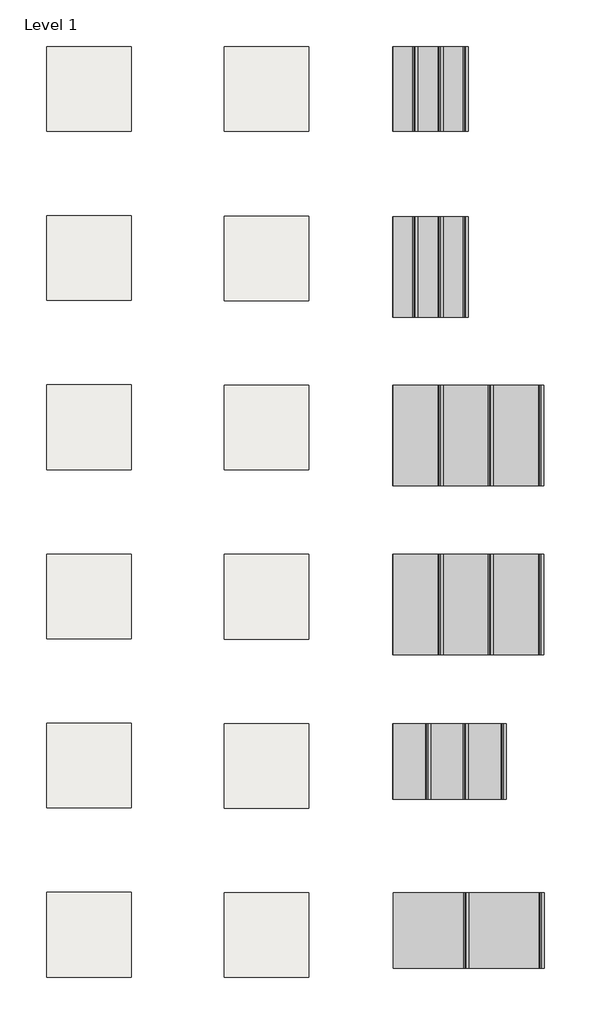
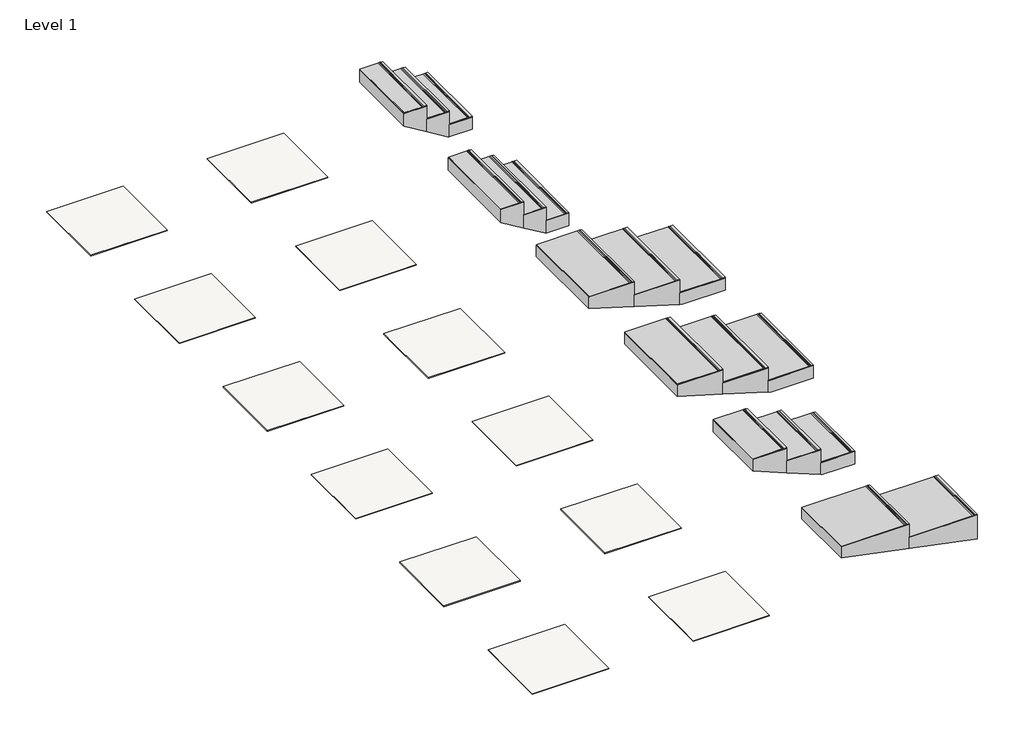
# One storey: 12 coverings, 6 stair flights.
"""IFC4 building model written with IfcOpenShell, lengths in millimetres."""

from ifc_helpers import new_model, si_unit, frame, origin, place, context, project, spatial, polyline, outline, extrude, faceted_brep, element, save

model = new_model("IFC4")

# Units and contexts
model_context = context("Model", 3, world=origin())
ifc_project = project(units=[si_unit("LENGTHUNIT", "METRE", prefix="MILLI")], contexts=[model_context])

# Site, building, storey
site = spatial("IfcSite", under=ifc_project)
building = spatial("IfcBuilding", under=site)
storey = spatial("IfcBuildingStorey", under=building, Name="Level 1", Elevation=0.0)

# Coverings
placement = place(None, origin())
element("IfcCovering", 1, ObjectType="REVIGRÉS-CALACATTA CLASSIC-DG-30x60-MATT RECT-CLASSIC", at=placement, inside=storey, context=model_context, shape_type="SweptSolid", body=[
    extrude(outline(polyline([(77840.9341098, 18731.1346775), (76840.9341098, 18731.1346775), (76840.9341098, 19731.1346775), (77840.9341098, 19731.1346775), (77840.9341098, 18731.1346775)])), frame((0.0, 0.0, -9.8), z_axis=(0.0, 0.0, 1.0), x_axis=(1.0, 0.0, 0.0)), (0.0, 0.0, 1.0), 9.8),
])
element("IfcCovering", 2, ObjectType="REVIGRÉS-CALACATTA CLASSIC-DG-30x60-POL-CLASSIC", at=placement, inside=storey, context=model_context, shape_type="SweptSolid", body=[
    extrude(outline(polyline([(79941.0591098, 18727.0096775), (78940.8091098, 18727.0096775), (78940.8091098, 19727.0096775), (79941.0591098, 19727.0096775), (79941.0591098, 18727.0096775)])), frame((0.0, 0.0, -9.8), z_axis=(0.0, 0.0, 1.0), x_axis=(1.0, 0.0, 0.0)), (0.0, 0.0, 1.0), 9.8),
])
element("IfcCovering", 3, ObjectType="REVIGRÉS-CALACATTA CLASSIC-DG-60x60-MATT RECT-CLASSIC", at=placement, inside=storey, context=model_context, shape_type="SweptSolid", body=[
    extrude(outline(polyline([(77840.9341098, 14731.1346775), (76840.9341098, 14731.1346775), (76840.9341098, 15731.1346775), (77840.9341098, 15731.1346775), (77840.9341098, 14731.1346775)])), frame((0.0, 0.0, -9.8), z_axis=(0.0, 0.0, 1.0), x_axis=(1.0, 0.0, 0.0)), (0.0, 0.0, 1.0), 9.8),
])
element("IfcCovering", 4, ObjectType="REVIGRÉS-CALACATTA CLASSIC-DG-60x60-POL-CLASSIC", at=placement, inside=storey, context=model_context, shape_type="SweptSolid", body=[
    extrude(outline(polyline([(79941.0591098, 14727.0096775), (78940.8091098, 14727.0096775), (78940.8091098, 15727.0096775), (79941.0591098, 15727.0096775), (79941.0591098, 14727.0096775)])), frame((0.0, 0.0, -9.8), z_axis=(0.0, 0.0, 1.0), x_axis=(1.0, 0.0, 0.0)), (0.0, 0.0, 1.0), 9.8),
])
element("IfcCovering", 5, ObjectType="REVIGRÉS-CALACATTA CLASSIC-DG-60x120-MATT RECT-CLASSIC", at=placement, inside=storey, context=model_context, shape_type="SweptSolid", body=[
    extrude(outline(polyline([(77840.9341098, 12731.1346775), (76840.9341098, 12731.1346775), (76840.9341098, 13731.1346775), (77840.9341098, 13731.1346775), (77840.9341098, 12731.1346775)])), frame((0.0, 0.0, -9.8), z_axis=(0.0, 0.0, 1.0), x_axis=(1.0, 0.0, 0.0)), (0.0, 0.0, 1.0), 9.8),
])
element("IfcCovering", 6, ObjectType="REVIGRÉS-CALACATTA CLASSIC-DG-60x120-POL-CLASSIC", at=placement, inside=storey, context=model_context, shape_type="SweptSolid", body=[
    extrude(outline(polyline([(79940.7341098, 12726.6846775), (78941.1341098, 12726.6846775), (78941.1341098, 13726.6846775), (79940.7341098, 13726.6846775), (79940.7341098, 12726.6846775)])), frame((0.0, 0.0, -9.8), z_axis=(0.0, 0.0, 1.0), x_axis=(1.0, 0.0, 0.0)), (0.0, 0.0, 1.0), 9.8),
])
element("IfcCovering", 7, ObjectType="REVIGRÉS-CALACATTA CLASSIC-DG-45x90-MATT RECT-CLASSIC", at=placement, inside=storey, context=model_context, shape_type="SweptSolid", body=[
    extrude(outline(polyline([(77840.9341098, 10731.1346775), (76840.9341098, 10731.1346775), (76840.9341098, 11731.1346775), (77840.9341098, 11731.1346775), (77840.9341098, 10731.1346775)])), frame((0.0, 0.0, -10.5), z_axis=(0.0, 0.0, 1.0), x_axis=(1.0, 0.0, 0.0)), (0.0, 0.0, 1.0), 10.5),
])
element("IfcCovering", 8, ObjectType="REVIGRÉS-CALACATTA CLASSIC-DG-45x90-POL-CLASSIC", at=placement, inside=storey, context=model_context, shape_type="SweptSolid", body=[
    extrude(outline(polyline([(79940.6091098, 10726.5596775), (78941.2591098, 10726.5596775), (78941.2591098, 11726.5596775), (79940.6091098, 11726.5596775), (79940.6091098, 10726.5596775)])), frame((0.0, 0.0, -10.5), z_axis=(0.0, 0.0, 1.0), x_axis=(1.0, 0.0, 0.0)), (0.0, 0.0, 1.0), 10.5),
])
element("IfcCovering", 9, ObjectType="REVIGRÉS-CALACATTA CLASSIC-DG-30x120-MATT RECT-CLASSIC", at=placement, inside=storey, context=model_context, shape_type="SweptSolid", body=[
    extrude(outline(polyline([(77840.9341098, 16731.1346775), (76840.9341098, 16731.1346775), (76840.9341098, 17731.1346775), (77840.9341098, 17731.1346775), (77840.9341098, 16731.1346775)])), frame((0.0, 0.0, -9.8), z_axis=(0.0, 0.0, 1.0), x_axis=(1.0, 0.0, 0.0)), (0.0, 0.0, 1.0), 9.8),
])
element("IfcCovering", 10, ObjectType="REVIGRÉS-CALACATTA CLASSIC-DG-30x120-POL-CLASSIC", at=placement, inside=storey, context=model_context, shape_type="SweptSolid", body=[
    extrude(outline(polyline([(79941.0591098, 16727.0096775), (78940.8091098, 16727.0096775), (78940.8091098, 17727.0096775), (79941.0591098, 17727.0096775), (79941.0591098, 16727.0096775)])), frame((0.0, 0.0, -9.8), z_axis=(0.0, 0.0, 1.0), x_axis=(1.0, 0.0, 0.0)), (0.0, 0.0, 1.0), 9.8),
])
element("IfcCovering", 11, ObjectType="REVIGRÉS-CALACATTA CLASSIC-DG-90x90-MATT RECT-CLASSIC", at=placement, inside=storey, context=model_context, shape_type="SweptSolid", body=[
    extrude(outline(polyline([(77840.9341098, 8731.1346775), (76840.9341098, 8731.1346775), (76840.9341098, 9731.1346775), (77840.9341098, 9731.1346775), (77840.9341098, 8731.1346775)])), frame((0.0, 0.0, -10.5), z_axis=(0.0, 0.0, 1.0), x_axis=(1.0, 0.0, 0.0)), (0.0, 0.0, 1.0), 10.5),
])
element("IfcCovering", 12, ObjectType="REVIGRÉS-CALACATTA CLASSIC-DG-90x90-POL-CLASSIC", at=placement, inside=storey, context=model_context, shape_type="SweptSolid", body=[
    extrude(outline(polyline([(79940.6091098, 8726.5596775), (78941.2591098, 8726.5596775), (78941.2591098, 9726.5596775), (79940.6091098, 9726.5596775), (79940.6091098, 8726.5596775)])), frame((0.0, 0.0, -10.5), z_axis=(0.0, 0.0, 1.0), x_axis=(1.0, 0.0, 0.0)), (0.0, 0.0, 1.0), 10.5),
])

# Stair flights
element("IfcStairFlight", 13, ObjectType="REVIGRÉS-CALACATTA CLASSIC-DG-30X60", at=placement, inside=storey, context=model_context, shape_type="SolidModel", body=[
    faceted_brep([(81528.9341098, 18727.0096775, 169.4941176), (81825.9341098, 18727.0096775, 169.4941176), (81825.9341098, 19727.0096775, 169.4941176), (81528.9341098, 19727.0096775, 169.4941176), (81528.9341098, 18727.0096775, 0.0), (81825.9341098, 18727.0096775, 0.0), (81825.9341099, 19727.0096775, 0.0), (81528.9341098, 19727.0096775, 0.0), (81231.9341098, 18727.0096775, 348.7882353), (81528.9341098, 18727.0096775, 348.7882353), (81528.9341098, 19727.0096775, 348.7882353), (81231.9341098, 19727.0096775, 348.7882353), (81231.9341098, 18727.0096775, 173.5747353), (81519.4599755, 18727.0096775, 0.0), (81519.4599755, 19727.0096775, 0.0), (81231.9341098, 19727.0096775, 173.5747353), (80934.9341098, 18727.0096775, 528.0823529), (81231.9341098, 18727.0096775, 528.0823529), (81231.9341098, 19727.0096775, 528.0823529), (80934.9341098, 19727.0096775, 528.0823529), (80934.9341098, 18727.0096775, 352.8688529), (80934.9341098, 19727.0096775, 352.8688529)], [[[0, 1, 2, 3]], [[1, 0, 4, 5]], [[2, 1, 5, 6]], [[3, 2, 6, 7]], [[8, 9, 10, 11]], [[4, 0, 9, 8, 12, 13]], [[0, 3, 10, 9]], [[3, 7, 14, 15, 11, 10]], [[16, 17, 18, 19]], [[17, 16, 20, 12, 8]], [[8, 11, 18, 17]], [[19, 18, 11, 15, 21]], [[16, 19, 21, 20]], [[5, 4, 13, 14, 7, 6]], [[14, 13, 12, 20, 21, 15]]]),
    extrude(outline(polyline([(179.2941176, 81795.9341098), (178.2941176, 81795.9341098), (178.2941176, 81790.9341098), (179.2941176, 81790.9341098), (179.2941176, 81780.9341098), (178.2941176, 81780.9341098), (178.2941176, 81775.9341098), (179.2941176, 81775.9341098), (179.2941176, 81765.9341098), (178.2941176, 81765.9341098), (178.2941176, 81760.9341098), (179.2941176, 81760.9341098), (179.2941176, 81530.9341098), (170.7941176, 81530.9341098), (170.7941176, 81825.9341098), (179.2941176, 81825.9341098), (179.2941176, 81795.9341098)])), frame((0.0, 18727.0096775, 0.0), z_axis=(0.0, 1.0, 0.0), x_axis=(0.0, 0.0, 1.0)), (0.0, 0.0, 1.0), 1000.0),
    extrude(outline(polyline([(358.5882353, 81498.9341098), (357.5882353, 81498.9341098), (357.5882353, 81493.9341098), (358.5882353, 81493.9341098), (358.5882353, 81483.9341098), (357.5882353, 81483.9341098), (357.5882353, 81478.9341098), (358.5882353, 81478.9341098), (358.5882353, 81468.9341098), (357.5882353, 81468.9341098), (357.5882353, 81463.9341098), (358.5882353, 81463.9341098), (358.5882353, 81233.9341098), (350.0882353, 81233.9341098), (350.0882353, 81528.9341098), (358.5882353, 81528.9341098), (358.5882353, 81498.9341098)])), frame((0.0, 18727.0096775, 0.0), z_axis=(0.0, 1.0, 0.0), x_axis=(0.0, 0.0, 1.0)), (0.0, 0.0, 1.0), 1000.0),
    extrude(outline(polyline([(537.8823529, 81201.9341098), (536.8823529, 81201.9341098), (536.8823529, 81196.9341098), (537.8823529, 81196.9341098), (537.8823529, 81186.9341098), (536.8823529, 81186.9341098), (536.8823529, 81181.9341098), (537.8823529, 81181.9341098), (537.8823529, 81171.9341098), (536.8823529, 81171.9341098), (536.8823529, 81166.9341098), (537.8823529, 81166.9341098), (537.8823529, 80936.9341098), (529.3823529, 80936.9341098), (529.3823529, 81231.9341098), (537.8823529, 81231.9341098), (537.8823529, 81201.9341098)])), frame((0.0, 18727.0096775, 0.0), z_axis=(0.0, 1.0, 0.0), x_axis=(0.0, 0.0, 1.0)), (0.0, 0.0, 1.0), 1000.0),
])
element("IfcStairFlight", 14, ObjectType="REVIGRÉS-CALACATTA CLASSIC-DG-30X120", at=placement, inside=storey, context=model_context, shape_type="SolidModel", body=[
    faceted_brep([(81528.9341098, 16533.0096775, 169.4941176), (81825.9341098, 16533.0096775, 169.4941176), (81825.9341099, 17721.0096775, 169.4941176), (81528.9341098, 17721.0096775, 169.4941176), (81528.9341098, 16533.0096775, 0.0), (81825.9341098, 16533.0096775, 0.0), (81825.9341098, 17721.0096775, 0.0), (81528.9341098, 17721.0096775, 0.0), (81231.9341098, 16533.0096775, 348.7882353), (81528.9341098, 16533.0096775, 348.7882353), (81528.9341098, 17721.0096775, 348.7882353), (81231.9341098, 17721.0096775, 348.7882353), (81231.9341098, 16533.0096775, 173.5747353), (81519.4599755, 16533.0096775, 0.0), (81519.4599755, 17721.0096775, 0.0), (81231.9341098, 17721.0096775, 173.5747353), (80934.9341098, 16533.0096775, 528.0823529), (81231.9341098, 16533.0096775, 528.0823529), (81231.9341098, 17721.0096775, 528.0823529), (80934.9341098, 17721.0096775, 528.0823529), (80934.9341098, 16533.0096775, 352.8688529), (80934.9341098, 17721.0096775, 352.8688529)], [[[0, 1, 2, 3]], [[1, 0, 4, 5]], [[2, 1, 5, 6]], [[3, 2, 6, 7]], [[8, 9, 10, 11]], [[4, 0, 9, 8, 12, 13]], [[0, 3, 10, 9]], [[3, 7, 14, 15, 11, 10]], [[16, 17, 18, 19]], [[17, 16, 20, 12, 8]], [[8, 11, 18, 17]], [[19, 18, 11, 15, 21]], [[16, 19, 21, 20]], [[5, 4, 13, 14, 7, 6]], [[14, 13, 12, 20, 21, 15]]]),
    extrude(outline(polyline([(179.2941176, 81795.9341098), (178.2941176, 81795.9341098), (178.2941176, 81790.9341098), (179.2941176, 81790.9341098), (179.2941176, 81780.9341098), (178.2941176, 81780.9341098), (178.2941176, 81775.9341098), (179.2941176, 81775.9341098), (179.2941176, 81765.9341098), (178.2941176, 81765.9341098), (178.2941176, 81760.9341098), (179.2941176, 81760.9341098), (179.2941176, 81530.9341098), (169.4941176, 81530.9341098), (169.4941176, 81825.9341098), (179.2941176, 81825.9341098), (179.2941176, 81795.9341098)])), frame((0.0, 16533.0096775, 0.0), z_axis=(0.0, 1.0, 0.0), x_axis=(0.0, 0.0, 1.0)), (0.0, 0.0, 1.0), 1188.0),
    extrude(outline(polyline([(358.5882353, 81498.9341098), (357.5882353, 81498.9341098), (357.5882353, 81493.9341098), (358.5882353, 81493.9341098), (358.5882353, 81483.9341098), (357.5882353, 81483.9341098), (357.5882353, 81478.9341098), (358.5882353, 81478.9341098), (358.5882353, 81468.9341098), (357.5882353, 81468.9341098), (357.5882353, 81463.9341098), (358.5882353, 81463.9341098), (358.5882353, 81233.9341098), (348.7882353, 81233.9341098), (348.7882353, 81528.9341098), (358.5882353, 81528.9341098), (358.5882353, 81498.9341098)])), frame((0.0, 16533.0096775, 0.0), z_axis=(0.0, 1.0, 0.0), x_axis=(0.0, 0.0, 1.0)), (0.0, 0.0, 1.0), 1188.0),
    extrude(outline(polyline([(537.8823529, 81201.9341098), (536.8823529, 81201.9341098), (536.8823529, 81196.9341098), (537.8823529, 81196.9341098), (537.8823529, 81186.9341098), (536.8823529, 81186.9341098), (536.8823529, 81181.9341098), (537.8823529, 81181.9341098), (537.8823529, 81171.9341098), (536.8823529, 81171.9341098), (536.8823529, 81166.9341098), (537.8823529, 81166.9341098), (537.8823529, 80936.9341098), (528.0823529, 80936.9341098), (528.0823529, 81231.9341098), (537.8823529, 81231.9341098), (537.8823529, 81201.9341098)])), frame((0.0, 16533.0096775, 0.0), z_axis=(0.0, 1.0, 0.0), x_axis=(0.0, 0.0, 1.0)), (0.0, 0.0, 1.0), 1188.0),
])
element("IfcStairFlight", 15, ObjectType="REVIGRÉS-CALACATTA CLASSIC-DG-45X90", at=placement, inside=storey, context=model_context, shape_type="SolidModel", body=[
    faceted_brep([(81827.4341098, 10835.5596775, 169.4941176), (82272.9341098, 10835.5596775, 169.4941176), (82272.9341098, 11726.5596775, 169.4941176), (81827.4341098, 11726.5596775, 169.4941176), (81827.4341098, 10835.5596775, 7.8019951), (81846.8200712, 10835.5596775, 0.0), (82272.9341098, 10835.5596775, 0.0), (82272.9341098, 11726.5596775, 0.0), (81846.8200712, 11726.5596775, 0.0), (81827.4341098, 11726.5596775, 7.8019951), (81381.9341098, 10835.5596775, 348.7882353), (81827.4341098, 10835.5596775, 348.7882353), (81827.4341098, 11726.5596775, 348.7882353), (81381.9341098, 11726.5596775, 348.7882353), (81381.9341098, 10835.5596775, 187.0961128), (81381.9341098, 11726.5596775, 187.0961128), (80936.4341098, 10835.5596775, 528.0823529), (81381.9341098, 10835.5596775, 528.0823529), (81381.9341098, 11726.5596775, 528.0823529), (80936.4341098, 11726.5596775, 528.0823529), (80936.4341098, 10835.5596775, 366.3902304), (80936.4341098, 11726.5596775, 366.3902304)], [[[0, 1, 2, 3]], [[1, 0, 4, 5, 6]], [[2, 1, 6, 7]], [[3, 2, 7, 8, 9]], [[10, 11, 12, 13]], [[11, 10, 14, 4, 0]], [[0, 3, 12, 11]], [[13, 12, 3, 9, 15]], [[16, 17, 18, 19]], [[17, 16, 20, 14, 10]], [[10, 13, 18, 17]], [[19, 18, 13, 15, 21]], [[16, 19, 21, 20]], [[7, 6, 5, 8]], [[8, 5, 4, 14, 20, 21, 15, 9]]]),
    extrude(outline(polyline([(179.2941176, 82242.9341098), (178.2941176, 82242.9341098), (178.2941176, 82237.9341098), (179.2941176, 82237.9341098), (179.2941176, 82227.9341098), (178.2941176, 82227.9341098), (178.2941176, 82222.9341098), (179.2941176, 82222.9341098), (179.2941176, 82212.9341098), (178.2941176, 82212.9341098), (178.2941176, 82207.9341098), (179.2941176, 82207.9341098), (179.2941176, 81829.4341098), (168.7941176, 81829.4341098), (168.7941176, 82272.9341098), (179.2941176, 82272.9341098), (179.2941176, 82242.9341098)])), frame((0.0, 10835.5596775, 0.0), z_axis=(0.0, 1.0, 0.0), x_axis=(0.0, 0.0, 1.0)), (0.0, 0.0, 1.0), 891.0),
    extrude(outline(polyline([(358.5882353, 81797.4341098), (357.5882353, 81797.4341098), (357.5882353, 81792.4341098), (358.5882353, 81792.4341098), (358.5882353, 81782.4341098), (357.5882353, 81782.4341098), (357.5882353, 81777.4341098), (358.5882353, 81777.4341098), (358.5882353, 81767.4341098), (357.5882353, 81767.4341098), (357.5882353, 81762.4341098), (358.5882353, 81762.4341098), (358.5882353, 81383.9341098), (348.0882353, 81383.9341098), (348.0882353, 81827.4341098), (358.5882353, 81827.4341098), (358.5882353, 81797.4341098)])), frame((0.0, 10835.5596775, 0.0), z_axis=(0.0, 1.0, 0.0), x_axis=(0.0, 0.0, 1.0)), (0.0, 0.0, 1.0), 891.0),
    extrude(outline(polyline([(537.8823529, 81351.9341098), (536.8823529, 81351.9341098), (536.8823529, 81346.9341098), (537.8823529, 81346.9341098), (537.8823529, 81336.9341098), (536.8823529, 81336.9341098), (536.8823529, 81331.9341098), (537.8823529, 81331.9341098), (537.8823529, 81321.9341098), (536.8823529, 81321.9341098), (536.8823529, 81316.9341098), (537.8823529, 81316.9341098), (537.8823529, 80938.4341098), (527.3823529, 80938.4341098), (527.3823529, 81381.9341098), (537.8823529, 81381.9341098), (537.8823529, 81351.9341098)])), frame((0.0, 10835.5596775, 0.0), z_axis=(0.0, 1.0, 0.0), x_axis=(0.0, 0.0, 1.0)), (0.0, 0.0, 1.0), 891.0),
])
element("IfcStairFlight", 16, ObjectType="REVIGRÉS-CALACATTA CLASSIC-DG-60X60", at=placement, inside=storey, context=model_context, shape_type="SolidModel", body=[
    faceted_brep([(82122.9341098, 14539.0096775, 168.7941176), (82716.9341098, 14539.0096775, 168.7941176), (82716.9341098, 15727.0096775, 168.7941176), (82122.9341098, 15727.0096775, 168.7941176), (82122.9341098, 14539.0096775, 12.1099045), (82163.0541281, 14539.0096775, 0.0), (82716.9341098, 14539.0096775, 0.0), (82716.9341098, 15727.0096775, 0.0), (82163.0541281, 15727.0096775, 0.0), (82122.9341098, 15727.0096775, 12.1099045), (81528.9341098, 14539.0096775, 348.0882353), (82122.9341098, 14539.0096775, 348.0882353), (82122.9341098, 15727.0096775, 348.0882353), (81528.9341098, 15727.0096775, 348.0882353), (81528.9341098, 14539.0096775, 191.4040222), (81528.9341098, 15727.0096775, 191.4040222), (80934.9341098, 14539.0096775, 527.3823529), (81528.9341098, 14539.0096775, 527.3823529), (81528.9341098, 15727.0096775, 527.3823529), (80934.9341098, 15727.0096775, 527.3823529), (80934.9341098, 14539.0096775, 370.6981398), (80934.9341098, 15727.0096775, 370.6981398)], [[[0, 1, 2, 3]], [[1, 0, 4, 5, 6]], [[2, 1, 6, 7]], [[3, 2, 7, 8, 9]], [[10, 11, 12, 13]], [[11, 10, 14, 4, 0]], [[0, 3, 12, 11]], [[13, 12, 3, 9, 15]], [[16, 17, 18, 19]], [[17, 16, 20, 14, 10]], [[10, 13, 18, 17]], [[19, 18, 13, 15, 21]], [[16, 19, 21, 20]], [[7, 6, 5, 8]], [[8, 5, 4, 14, 20, 21, 15, 9]]]),
    extrude(outline(polyline([(179.2941176, 82686.9341098), (178.2941176, 82686.9341098), (178.2941176, 82681.9341098), (179.2941176, 82681.9341098), (179.2941176, 82671.9341098), (178.2941176, 82671.9341098), (178.2941176, 82666.9341098), (179.2941176, 82666.9341098), (179.2941176, 82656.9341098), (178.2941176, 82656.9341098), (178.2941176, 82651.9341098), (179.2941176, 82651.9341098), (179.2941176, 82124.9341098), (168.7941176, 82124.9341098), (168.7941176, 82716.9341098), (179.2941176, 82716.9341098), (179.2941176, 82686.9341098)])), frame((0.0, 14539.0096775, 0.0), z_axis=(0.0, 1.0, 0.0), x_axis=(0.0, 0.0, 1.0)), (0.0, 0.0, 1.0), 1188.0),
    extrude(outline(polyline([(358.5882353, 82092.9341098), (357.5882353, 82092.9341098), (357.5882353, 82087.9341098), (358.5882353, 82087.9341098), (358.5882353, 82077.9341098), (357.5882353, 82077.9341098), (357.5882353, 82072.9341098), (358.5882353, 82072.9341098), (358.5882353, 82062.9341098), (357.5882353, 82062.9341098), (357.5882353, 82057.9341098), (358.5882353, 82057.9341098), (358.5882353, 81530.9341098), (348.0882353, 81530.9341098), (348.0882353, 82122.9341098), (358.5882353, 82122.9341098), (358.5882353, 82092.9341098)])), frame((0.0, 14539.0096775, 0.0), z_axis=(0.0, 1.0, 0.0), x_axis=(0.0, 0.0, 1.0)), (0.0, 0.0, 1.0), 1188.0),
    extrude(outline(polyline([(537.8823529, 81498.9341098), (536.8823529, 81498.9341098), (536.8823529, 81493.9341098), (537.8823529, 81493.9341098), (537.8823529, 81483.9341098), (536.8823529, 81483.9341098), (536.8823529, 81478.9341098), (537.8823529, 81478.9341098), (537.8823529, 81468.9341098), (536.8823529, 81468.9341098), (536.8823529, 81463.9341098), (537.8823529, 81463.9341098), (537.8823529, 80936.9341098), (527.3823529, 80936.9341098), (527.3823529, 81528.9341098), (537.8823529, 81528.9341098), (537.8823529, 81498.9341098)])), frame((0.0, 14539.0096775, 0.0), z_axis=(0.0, 1.0, 0.0), x_axis=(0.0, 0.0, 1.0)), (0.0, 0.0, 1.0), 1188.0),
])
element("IfcStairFlight", 17, ObjectType="REVIGRÉS-CALACATTA CLASSIC-DG-60X120", at=placement, inside=storey, context=model_context, shape_type="SolidModel", body=[
    faceted_brep([(82122.9341098, 12538.6846775, 168.7941176), (82716.9341098, 12538.6846775, 168.7941176), (82716.9341098, 13726.6846775, 168.7941176), (82122.9341098, 13726.6846775, 168.7941176), (82122.9341098, 12538.6846775, 12.1099045), (82163.0541281, 12538.6846775, 0.0), (82716.9341098, 12538.6846775, 0.0), (82716.9341098, 13726.6846775, 0.0), (82163.0541281, 13726.6846775, 0.0), (82122.9341098, 13726.6846775, 12.1099045), (81528.9341098, 12538.6846775, 348.0882353), (82122.9341098, 12538.6846775, 348.0882353), (82122.9341098, 13726.6846775, 348.0882353), (81528.9341098, 13726.6846775, 348.0882353), (81528.9341098, 12538.6846775, 191.4040222), (81528.9341098, 13726.6846775, 191.4040222), (80934.9341098, 12538.6846775, 527.3823529), (81528.9341098, 12538.6846775, 527.3823529), (81528.9341098, 13726.6846775, 527.3823529), (80934.9341098, 13726.6846775, 527.3823529), (80934.9341098, 12538.6846775, 370.6981398), (80934.9341098, 13726.6846775, 370.6981398)], [[[0, 1, 2, 3]], [[1, 0, 4, 5, 6]], [[2, 1, 6, 7]], [[3, 2, 7, 8, 9]], [[10, 11, 12, 13]], [[11, 10, 14, 4, 0]], [[0, 3, 12, 11]], [[13, 12, 3, 9, 15]], [[16, 17, 18, 19]], [[17, 16, 20, 14, 10]], [[10, 13, 18, 17]], [[19, 18, 13, 15, 21]], [[16, 19, 21, 20]], [[7, 6, 5, 8]], [[8, 5, 4, 14, 20, 21, 15, 9]]]),
    extrude(outline(polyline([(179.2941176, 82686.9341098), (178.2941176, 82686.9341098), (178.2941176, 82681.9341098), (179.2941176, 82681.9341098), (179.2941176, 82671.9341098), (178.2941176, 82671.9341098), (178.2941176, 82666.9341098), (179.2941176, 82666.9341098), (179.2941176, 82656.9341098), (178.2941176, 82656.9341098), (178.2941176, 82651.9341098), (179.2941176, 82651.9341098), (179.2941176, 82124.9341098), (169.4941176, 82124.9341098), (169.4941176, 82716.9341098), (179.2941176, 82716.9341098), (179.2941176, 82686.9341098)])), frame((0.0, 12538.6846775, 0.0), z_axis=(0.0, 1.0, 0.0), x_axis=(0.0, 0.0, 1.0)), (0.0, 0.0, 1.0), 1188.0),
    extrude(outline(polyline([(358.5882353, 82092.9341098), (357.5882353, 82092.9341098), (357.5882353, 82087.9341098), (358.5882353, 82087.9341098), (358.5882353, 82077.9341098), (357.5882353, 82077.9341098), (357.5882353, 82072.9341098), (358.5882353, 82072.9341098), (358.5882353, 82062.9341098), (357.5882353, 82062.9341098), (357.5882353, 82057.9341098), (358.5882353, 82057.9341098), (358.5882353, 81530.9341098), (348.7882353, 81530.9341098), (348.7882353, 82122.9341098), (358.5882353, 82122.9341098), (358.5882353, 82092.9341098)])), frame((0.0, 12538.6846775, 0.0), z_axis=(0.0, 1.0, 0.0), x_axis=(0.0, 0.0, 1.0)), (0.0, 0.0, 1.0), 1188.0),
    extrude(outline(polyline([(537.8823529, 81498.9341098), (536.8823529, 81498.9341098), (536.8823529, 81493.9341098), (537.8823529, 81493.9341098), (537.8823529, 81483.9341098), (536.8823529, 81483.9341098), (536.8823529, 81478.9341098), (537.8823529, 81478.9341098), (537.8823529, 81468.9341098), (536.8823529, 81468.9341098), (536.8823529, 81463.9341098), (537.8823529, 81463.9341098), (537.8823529, 80936.9341098), (528.0823529, 80936.9341098), (528.0823529, 81528.9341098), (537.8823529, 81528.9341098), (537.8823529, 81498.9341098)])), frame((0.0, 12538.6846775, 0.0), z_axis=(0.0, 1.0, 0.0), x_axis=(0.0, 0.0, 1.0)), (0.0, 0.0, 1.0), 1188.0),
])
element("IfcStairFlight", 18, ObjectType="REVIGRÉS-CALACATTA CLASSIC-DG-90X90", at=placement, inside=storey, context=model_context, shape_type="SolidModel", body=[
    faceted_brep([(81831.9341098, 8835.5596775, 348.7882353), (82722.9341098, 8835.5596775, 348.7882353), (82722.9341098, 9726.5596775, 348.7882353), (81831.9341098, 9726.5596775, 348.7882353), (81831.9341098, 8835.5596775, 195.7814197), (82722.9341098, 8835.5596775, 16.487302), (82722.9341098, 9726.5596775, 16.487302), (81831.9341098, 9726.5596775, 195.7814197), (80940.9341098, 8835.5596775, 528.0823529), (81831.9341098, 8835.5596775, 528.0823529), (81831.9341098, 9726.5596775, 528.0823529), (80940.9341098, 9726.5596775, 528.0823529), (80940.9341098, 8835.5596775, 375.0755373), (80940.9341098, 9726.5596775, 375.0755373)], [[[0, 1, 2, 3]], [[1, 0, 4, 5]], [[2, 1, 5, 6]], [[3, 2, 6, 7]], [[8, 9, 10, 11]], [[9, 8, 12, 4, 0]], [[0, 3, 10, 9]], [[11, 10, 3, 7, 13]], [[8, 11, 13, 12]], [[5, 4, 12, 13, 7, 6]]]),
    extrude(outline(polyline([(358.5882353, 82692.9341098), (357.5882353, 82692.9341098), (357.5882353, 82687.9341098), (358.5882353, 82687.9341098), (358.5882353, 82677.9341098), (357.5882353, 82677.9341098), (357.5882353, 82672.9341098), (358.5882353, 82672.9341098), (358.5882353, 82662.9341098), (357.5882353, 82662.9341098), (357.5882353, 82657.9341098), (358.5882353, 82657.9341098), (358.5882353, 81831.9341098), (348.0882353, 81831.9341098), (348.0882353, 82722.9341098), (358.5882353, 82722.9341098), (358.5882353, 82692.9341098)])), frame((0.0, 8835.5596775, 0.0), z_axis=(0.0, 1.0, 0.0), x_axis=(0.0, 0.0, 1.0)), (0.0, 0.0, 1.0), 891.0),
    extrude(outline(polyline([(537.8823529, 81801.9341098), (536.8823529, 81801.9341098), (536.8823529, 81796.9341098), (537.8823529, 81796.9341098), (537.8823529, 81786.9341098), (536.8823529, 81786.9341098), (536.8823529, 81781.9341098), (537.8823529, 81781.9341098), (537.8823529, 81771.9341098), (536.8823529, 81771.9341098), (536.8823529, 81766.9341098), (537.8823529, 81766.9341098), (537.8823529, 80940.9341098), (527.3823529, 80940.9341098), (527.3823529, 81831.9341098), (537.8823529, 81831.9341098), (537.8823529, 81801.9341098)])), frame((0.0, 8835.5596775, 0.0), z_axis=(0.0, 1.0, 0.0), x_axis=(0.0, 0.0, 1.0)), (0.0, 0.0, 1.0), 891.0),
])

save(model, "model.ifc")
